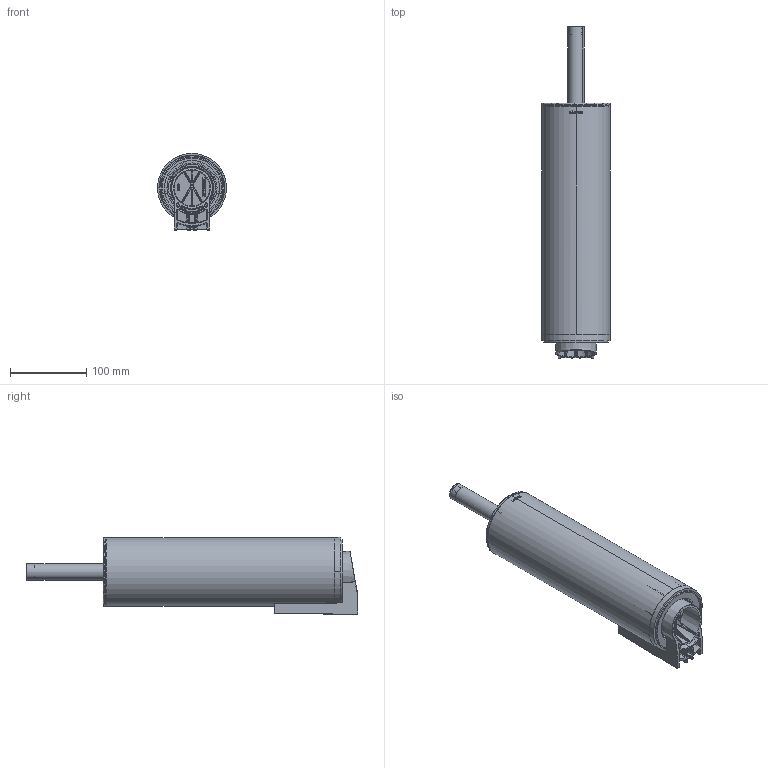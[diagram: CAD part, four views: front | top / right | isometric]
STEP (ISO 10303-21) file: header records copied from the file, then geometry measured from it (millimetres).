
FILE_DESCRIPTION (( 'STEP AP203' ), '1' );
FILE_NAME ('3-84151-0001D3S.STEP', '2023-10-18T08:46:31', ( '' ), ( '' ), 'SwSTEP 2.0', 'SolidWorks 2016', '' );
FILE_SCHEMA (( 'CONFIG_CONTROL_DESIGN' ));
Products named in the file (1): 3-84151-0001D3S
Bounding box: 90.43 x 434.98 x 101.1 mm (x, y, z)
Volume: 366339.3 mm3; surface area: 430015.8 mm2
Topology: 7 solids, 7 shells, 2331 faces, 5856 edges, 3406 vertices
Faces by surface type: bspline 846, plane 553, cylinder 433, sphere 206, torus 170, cone 123
Entity records: 91581 total; most frequent: CARTESIAN_POINT 43827, ORIENTED_EDGE 11274, DIRECTION 8311, EDGE_CURVE 5637, VERTEX_POINT 3379, AXIS2_PLACEMENT_3D 3326, EDGE_LOOP 2410, ADVANCED_FACE 2331
